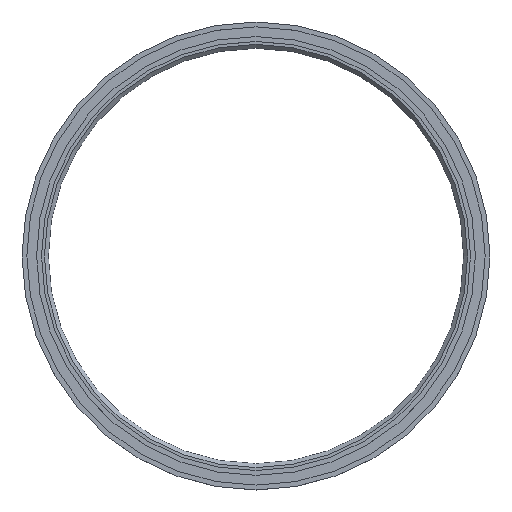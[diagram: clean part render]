
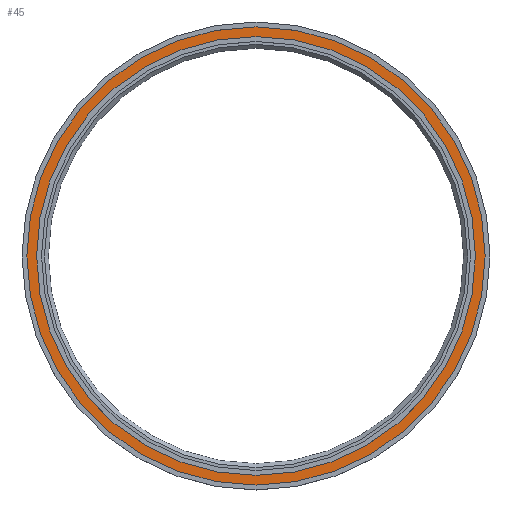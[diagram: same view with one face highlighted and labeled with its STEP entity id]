
A CAD part, top view. The second image highlights one B-rep face of the part: STEP entity #45.
In plain terms, the highlighted planar face has unit normal (0, 0, 1).
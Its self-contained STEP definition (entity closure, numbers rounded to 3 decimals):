
#45 = ADVANCED_FACE( '', ( #96, #97 ), #98, .F. );
#96 = FACE_OUTER_BOUND( '', #155, .T. );
#97 = FACE_BOUND( '', #156, .T. );
#98 = PLANE( '', #157 );
#155 = EDGE_LOOP( '', ( #216 ) );
#156 = EDGE_LOOP( '', ( #217 ) );
#157 = AXIS2_PLACEMENT_3D( '', #218, #219, #220 );
#216 = ORIENTED_EDGE( '', *, *, #281, .F. );
#217 = ORIENTED_EDGE( '', *, *, #282, .T. );
#218 = CARTESIAN_POINT( '', ( -117.5, 0., 10. ) );
#219 = DIRECTION( '', ( 0., 0., -1. ) );
#220 = DIRECTION( '', ( -1., 0., 0. ) );
#281 = EDGE_CURVE( '', #314, #314, #315, .T. );
#282 = EDGE_CURVE( '', #316, #316, #317, .T. );
#314 = VERTEX_POINT( '', #353 );
#315 = CIRCLE( '', #354, 117.5 );
#316 = VERTEX_POINT( '', #355 );
#317 = CIRCLE( '', #356, 112.5 );
#353 = CARTESIAN_POINT( '', ( -117.5, 0., 10. ) );
#354 = AXIS2_PLACEMENT_3D( '', #394, #395, #396 );
#355 = CARTESIAN_POINT( '', ( -112.5, 0., 10. ) );
#356 = AXIS2_PLACEMENT_3D( '', #397, #398, #399 );
#394 = CARTESIAN_POINT( '', ( 0., 0., 10. ) );
#395 = DIRECTION( '', ( 0., 0., -1. ) );
#396 = DIRECTION( '', ( -1., 0., 0. ) );
#397 = CARTESIAN_POINT( '', ( 0., 0., 10. ) );
#398 = DIRECTION( '', ( 0., 0., -1. ) );
#399 = DIRECTION( '', ( -1., 0., 0. ) );
